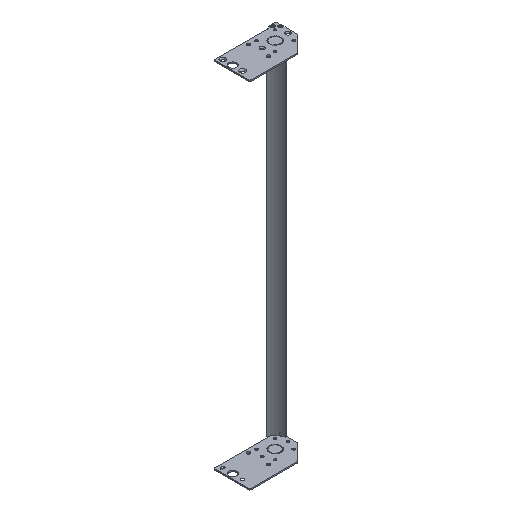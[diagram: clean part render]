
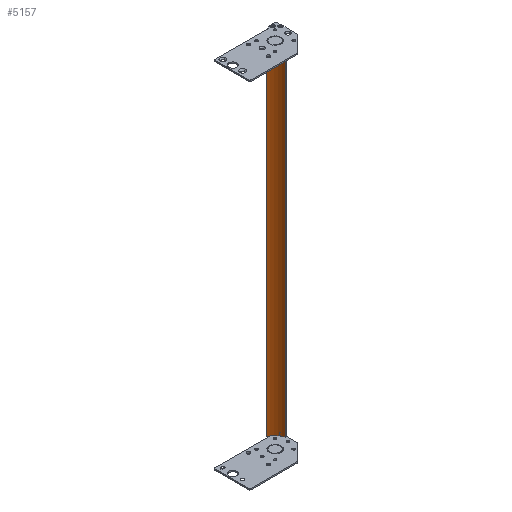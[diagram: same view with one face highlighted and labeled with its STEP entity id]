
A CAD part, isometric view. The second image highlights one B-rep face of the part: STEP entity #5157.
In plain terms, the highlighted cylindrical face has radius 40.64 mm (diameter 81.28 mm), a partial arc.
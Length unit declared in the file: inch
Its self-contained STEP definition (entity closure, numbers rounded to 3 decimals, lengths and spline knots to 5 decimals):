
#4902=CARTESIAN_POINT('',(-1.63,-1.52,17.118));
#4903=DIRECTION('',(0.,0.,-1.));
#4904=DIRECTION('',(0.405,0.914,0.));
#4905=AXIS2_PLACEMENT_3D('',#4902,#4903,#4904);
#4940=DIRECTION('',(0.,0.,1.));
#4941=VECTOR('',#4940,34.236);
#4942=CARTESIAN_POINT('',(-0.98126,-0.05742,-17.118));
#4943=LINE('',#4942,#4941);
#4944=DIRECTION('',(0.,0.,1.));
#4945=VECTOR('',#4944,34.236);
#4946=CARTESIAN_POINT('',(-0.11675,-1.00032,-17.118));
#4947=LINE('',#4946,#4945);
#4958=CARTESIAN_POINT('',(-1.63,-1.52,-17.118));
#4959=DIRECTION('',(0.,0.,1.));
#4960=DIRECTION('',(0.946,0.325,0.));
#4961=AXIS2_PLACEMENT_3D('',#4958,#4959,#4960);
#5052=CARTESIAN_POINT('',(-0.11675,-1.00032,-17.118));
#5054=VERTEX_POINT('',#5052);
#5059=CARTESIAN_POINT('',(-0.98126,-0.05742,-17.118));
#5060=VERTEX_POINT('',#5059);
#5061=CARTESIAN_POINT('',(-0.98126,-0.05742,17.118));
#5062=CARTESIAN_POINT('',(-0.11675,-1.00032,17.118));
#5063=VERTEX_POINT('',#5061);
#5064=VERTEX_POINT('',#5062);
#5144=CARTESIAN_POINT('',(-1.63,-1.52,17.118));
#5145=DIRECTION('',(0.,0.,-1.));
#5146=DIRECTION('',(-1.,0.,0.));
#5147=AXIS2_PLACEMENT_3D('',#5144,#5145,#5146);
#5148=CYLINDRICAL_SURFACE('',#5147,1.6);
#5150=ORIENTED_EDGE('',*,*,#5149,.T.);
#5151=ORIENTED_EDGE('',*,*,#5136,.T.);
#5152=ORIENTED_EDGE('',*,*,#5096,.T.);
#5154=ORIENTED_EDGE('',*,*,#5153,.F.);
#5155=EDGE_LOOP('',(#5150,#5151,#5152,#5154));
#5156=FACE_OUTER_BOUND('',#5155,.F.);
#4906=CIRCLE('',#4905,1.6);
#4962=CIRCLE('',#4961,1.6);
#5096=EDGE_CURVE('',#5063,#5064,#4906,.T.);
#5136=EDGE_CURVE('',#5060,#5063,#4943,.T.);
#5149=EDGE_CURVE('',#5054,#5060,#4962,.T.);
#5153=EDGE_CURVE('',#5054,#5064,#4947,.T.);
#5157=ADVANCED_FACE('',(#5156),#5148,.F.);
